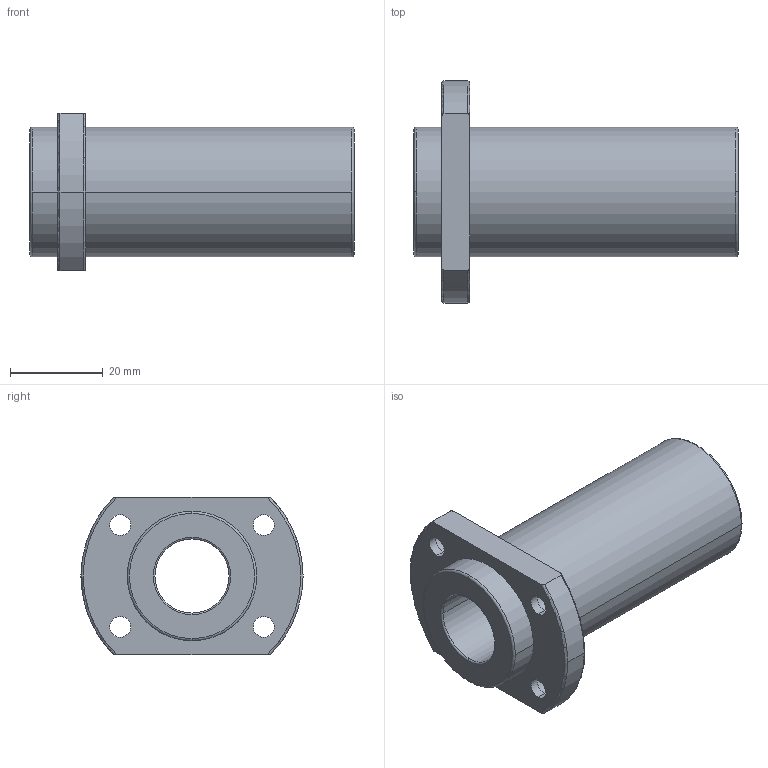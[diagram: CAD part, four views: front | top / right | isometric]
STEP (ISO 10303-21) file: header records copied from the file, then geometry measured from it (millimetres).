
FILE_DESCRIPTION(('FreeCAD Model'),'2;1');
FILE_NAME('Open CASCADE Shape Model','2021-05-03T14:48:07',('Author'),( ''),'Open CASCADE STEP processor 7.5','FreeCAD','Unknown');
FILE_SCHEMA(('AUTOMOTIVE_DESIGN { 1 0 10303 214 1 1 1 1 }'));
Length unit declared in the file: millimetre
Products named in the file (1): linear_lmhp16luu
Bounding box: 70 x 48 x 34 mm (x, y, z)
Volume: 33366.1 mm3; surface area: 12854.8 mm2
Topology: 1 solids, 1 shells, 48 faces, 124 edges, 84 vertices
Faces by surface type: cylinder 26, torus 12, plane 10
Entity records: 4208 total; most frequent: CARTESIAN_POINT 1685, DIRECTION 496, ORIENTED_EDGE 248, PCURVE 248, DEFINITIONAL_REPRESENTATION 248, LINE 212, VECTOR 212, AXIS2_PLACEMENT_3D 133
